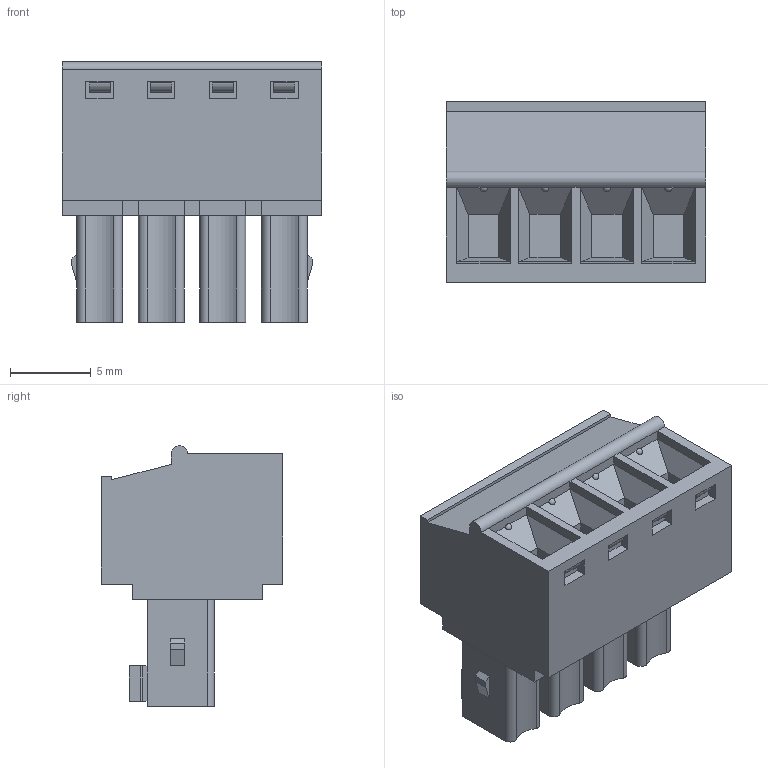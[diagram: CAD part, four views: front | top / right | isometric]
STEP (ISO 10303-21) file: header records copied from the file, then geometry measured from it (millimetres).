
FILE_DESCRIPTION(('FreeCAD Model'),'2;1');
FILE_NAME('Open CASCADE Shape Model','2023-05-24T14:50:21',('Author'),( ''),'Open CASCADE STEP processor 7.6','FreeCAD','Unknown');
FILE_SCHEMA(('AUTOMOTIVE_DESIGN { 1 0 10303 214 1 1 1 1 }'));
Length unit declared in the file: millimetre
Products named in the file (1): BR7F2-04
Bounding box: 16.03 x 11.2 x 16.1 mm (x, y, z)
Volume: 1595.2 mm3; surface area: 1608.9 mm2
Topology: 1 solids, 1 shells, 375 faces, 911 edges, 568 vertices
Faces by surface type: plane 230, cylinder 81, cone 40, torus 16, sphere 8
Entity records: 24407 total; most frequent: CARTESIAN_POINT 5899, DIRECTION 3538, LINE 2169, VECTOR 2169, ORIENTED_EDGE 1806, PCURVE 1806, DEFINITIONAL_REPRESENTATION 1806, EDGE_CURVE 903
